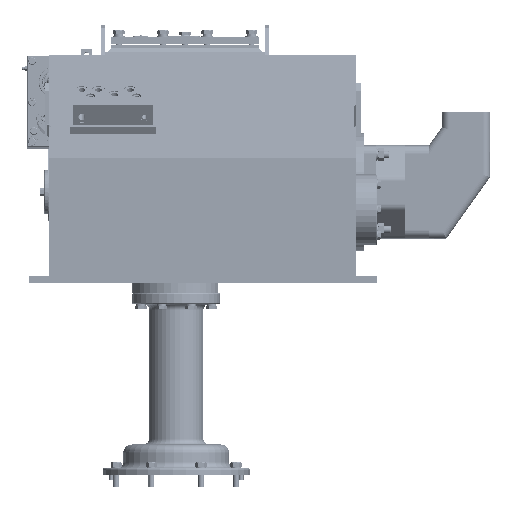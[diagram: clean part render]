
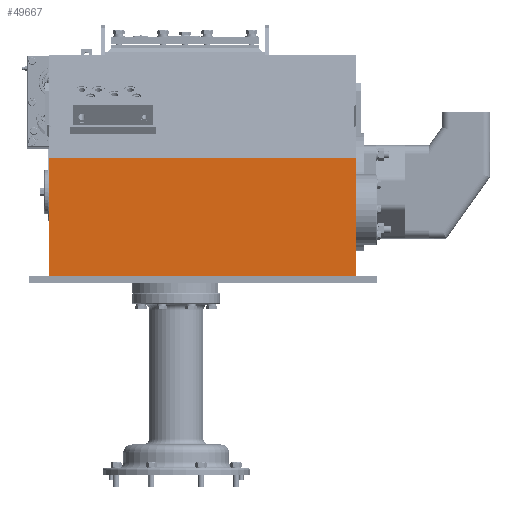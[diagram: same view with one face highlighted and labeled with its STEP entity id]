
A CAD part, left-side view. The second image highlights one B-rep face of the part: STEP entity #49667.
In plain terms, the highlighted planar face has unit normal (-1, 0, 0) as drawn and (0, -1, 0) by its records, which use the part's own axes.
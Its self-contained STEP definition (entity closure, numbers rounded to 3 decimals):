
#46547=DIRECTION('',(0.,0.,-1.));
#46548=VECTOR('',#46547,200.);
#46549=CARTESIAN_POINT('',(215.,-1060.,142.5));
#46550=LINE('',#46549,#46548);
#46567=DIRECTION('',(-1.,0.,0.));
#46568=VECTOR('',#46567,520.);
#46569=CARTESIAN_POINT('',(215.,-1060.,142.5));
#46570=LINE('',#46569,#46568);
#46599=DIRECTION('',(-1.,0.,0.));
#46600=VECTOR('',#46599,520.);
#46601=CARTESIAN_POINT('',(215.,-1060.,-57.5));
#46602=LINE('',#46601,#46600);
#46719=DIRECTION('',(0.,0.,1.));
#46720=VECTOR('',#46719,200.);
#46721=CARTESIAN_POINT('',(-305.,-1060.,-57.5));
#46722=LINE('',#46721,#46720);
#48885=CARTESIAN_POINT('',(215.,-1060.,142.5));
#48886=CARTESIAN_POINT('',(215.,-1060.,-57.5));
#48887=VERTEX_POINT('',#48885);
#48888=VERTEX_POINT('',#48886);
#49149=CARTESIAN_POINT('',(-305.,-1060.,-57.5));
#49150=VERTEX_POINT('',#49149);
#49151=CARTESIAN_POINT('',(-305.,-1060.,142.5));
#49152=VERTEX_POINT('',#49151);
#49654=CARTESIAN_POINT('',(-150.,-1060.,142.5));
#49655=DIRECTION('',(0.,-1.,0.));
#49656=DIRECTION('',(0.,0.,-1.));
#49657=AXIS2_PLACEMENT_3D('',#49654,#49655,#49656);
#49658=PLANE('',#49657);
#49660=ORIENTED_EDGE('',*,*,#49659,.T.);
#49662=ORIENTED_EDGE('',*,*,#49661,.T.);
#49663=ORIENTED_EDGE('',*,*,#49619,.F.);
#49664=ORIENTED_EDGE('',*,*,#49576,.T.);
#49665=EDGE_LOOP('',(#49660,#49662,#49663,#49664));
#49666=FACE_OUTER_BOUND('',#49665,.F.);
#49667=ADVANCED_FACE('',(#49666),#49658,.T.);
#49576=EDGE_CURVE('',#48887,#48888,#46550,.T.);
#49619=EDGE_CURVE('',#48887,#49152,#46570,.T.);
#49659=EDGE_CURVE('',#48888,#49150,#46602,.T.);
#49661=EDGE_CURVE('',#49150,#49152,#46722,.T.);
